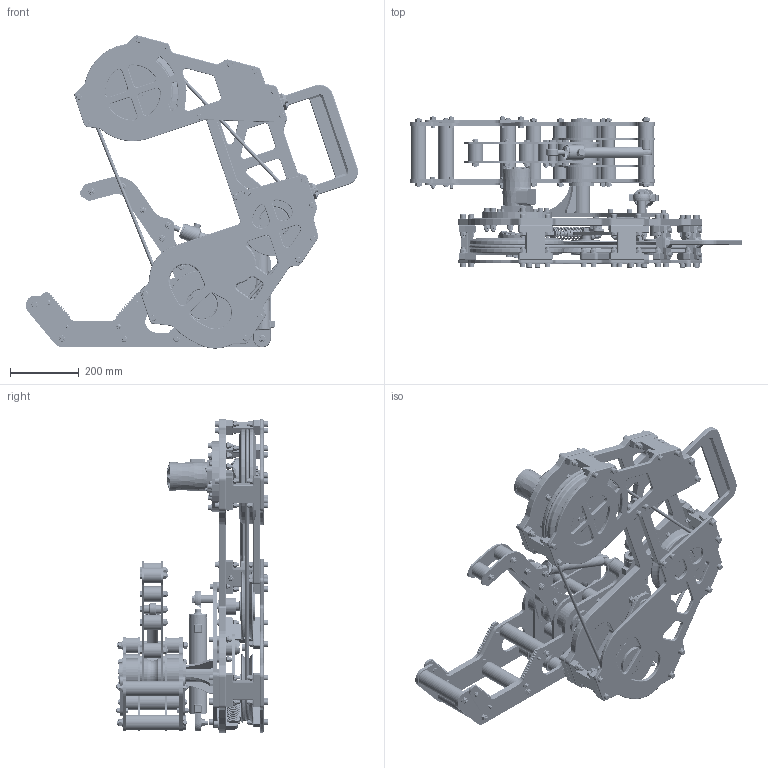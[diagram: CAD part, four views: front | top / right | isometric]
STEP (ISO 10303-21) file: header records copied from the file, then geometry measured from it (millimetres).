
FILE_DESCRIPTION(/* description */ (''),/* implementation_level */ '2;1');
FILE_NAME(/* name */ 'S:\02.Public\05.Marked\02 IKM Technology Products\08 3D Models\SHRINKWRAPS\1 CUTTING SAW AND MULTI TOOLS\IKM-1044551.stp',/* time_stamp */ '2020-08-25T09:22:22+02:00',/* author */ ('benjamino'),/* organization */ (''),/* preprocessor_version */ 'ST-DEVELOPER v17',/* originating_system */ 'Autodesk Inventor 2018',/* authorisation */ '');
FILE_SCHEMA (('AUTOMOTIVE_DESIGN { 1 0 10303 214 3 1 1 }'));
Products named in the file (1): IKM-1044551
Bounding box: 967.75 x 441 x 913.26 mm (x, y, z)
Volume: 23870826.6 mm3; surface area: 3322334.9 mm2
Topology: 2 solids, 2 shells, 5727 faces, 14001 edges, 8671 vertices
Faces by surface type: plane 2538, cylinder 1532, cone 704, torus 616, bspline 309, sphere 28
Full cylindrical faces by diameter (mm): 6.7 x3, 7.5 x1, 8 x13, 10 x86, 10.85 x6, 11.4 x8, 11.6 x1, 11.63 x4, 12 x15, 13 x5, 14.63 x47, 15.6 x11, 16 x62, 16.6 x2, 16.63 x1, 18 x2, 19.5 x2, 20 x119, 23 x1, 24 x6, 25 x6, 26.8 x2, 32 x1, 36 x1, 37 x3, 37.94 x1, 39 x1, 39.4 x2, 40 x3, 44 x1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
Entity records: 182804 total; most frequent: CARTESIAN_POINT 43337, DIRECTION 29047, ORIENTED_EDGE 27946, EDGE_CURVE 13973, AXIS2_PLACEMENT_3D 11532, VERTEX_POINT 8671, EDGE_LOOP 6324, CIRCLE 6016
